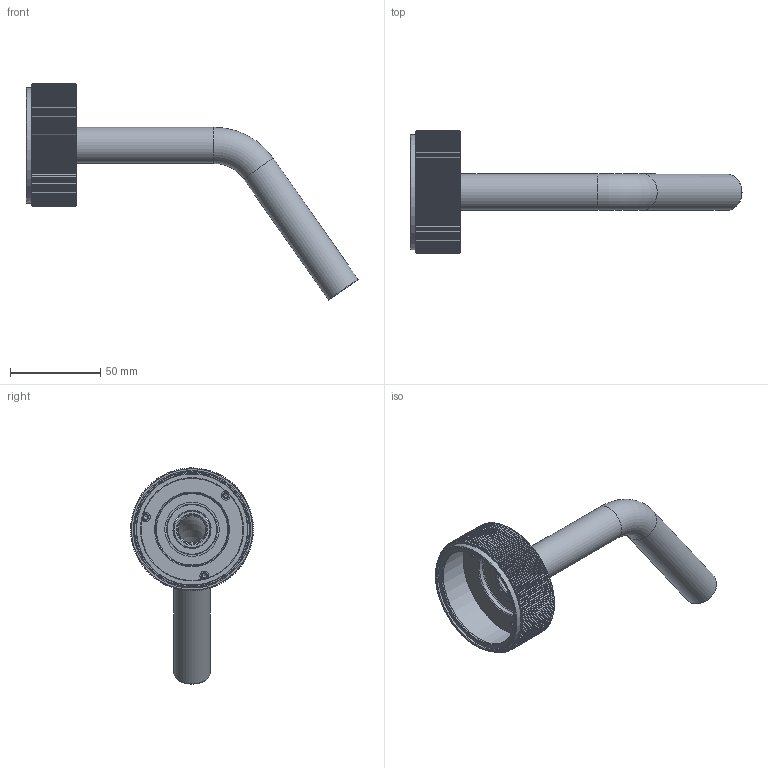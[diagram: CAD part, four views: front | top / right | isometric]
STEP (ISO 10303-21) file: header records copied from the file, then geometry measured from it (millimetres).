
FILE_DESCRIPTION(/* description */ ('Unknown'),/* implementation_level */ '2;1');
FILE_NAME(/* name */ 'RN002L',/* time_stamp */ '2023-02-12T11:50:07+01:00',/* author */ ('Unknown'),/* organization */ ('Unknown'),/* preprocessor_version */ 'ST-DEVELOPER v18.102',/* originating_system */ 'Solid Edge',/* authorisation */ 'Unknown');
FILE_SCHEMA (('AUTOMOTIVE_DESIGN {1 0 10303 214 3 1 1}'));
Length unit declared in the file: millimetre
Products named in the file (13): RN002L; RN002L-002 R1_oa_0; 44.3256.450; CB003-002-1; CB003-002-2; CB003-002-3; CB003-002-4; RN001-08; RN002L-01 R1; RN001-12; RN002-06; RN002-003_oa_1; RN002-03
Assembly tree (12 placements, depth 4):
  RN002L
    RN002L-002 R1_oa_0
      44.3256.450
        CB003-002-1
        CB003-002-2
        CB003-002-3
        CB003-002-4
      RN001-08
      RN002L-01 R1
      RN001-12
      RN002-06
      RN002-003_oa_1
        RN002-03
Bounding box: 183.68 x 68 x 119.57 mm (x, y, z)
Volume: 48309.4 mm3; surface area: 45420.8 mm2
Topology: 9 solids, 9 shells, 1178 faces, 2638 edges, 1503 vertices
Faces by surface type: plane 503, cone 412, cylinder 228, torus 18, bspline 17
Full cylindrical faces by diameter (mm): 2.459 x6, 3.242 x1, 5 x3, 11.027 x2, 12.159 x1, 12.196 x1, 12.45 x1, 13.464 x1, 14.577 x1, 15 x2, 15.033 x1, 15.218 x1, 15.229 x1, 15.417 x2, 16 x1, 16.3 x1, 16.5 x2, 16.75 x1, 18 x1, 20 x2, 20.5 x1, 23.8 x1, 24 x1, 28 x1, 30 x1, 40.5 x1, 56.5 x1, 61.5 x2, 64 x1, 65 x1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
Entity records: 40310 total; most frequent: CARTESIAN_POINT 7853, DIRECTION 5014, ORIENTED_EDGE 4992, EDGE_CURVE 2496, AXIS2_PLACEMENT_3D 2109, VERTEX_POINT 1474, FACE_BOUND 1326, EDGE_LOOP 1320
